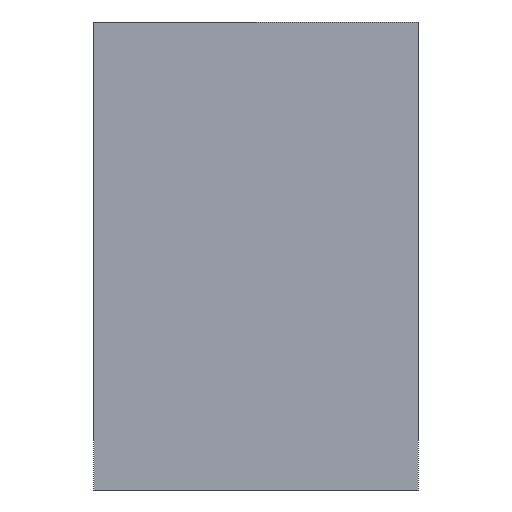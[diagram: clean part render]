
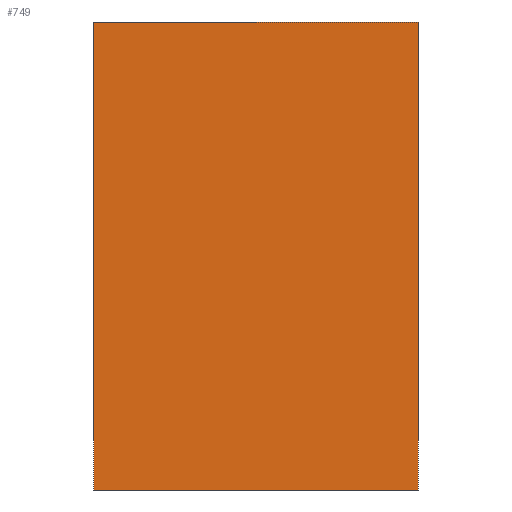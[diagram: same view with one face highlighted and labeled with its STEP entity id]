
A CAD part, left-side view. The second image highlights one B-rep face of the part: STEP entity #749.
In plain terms, the highlighted planar face has unit normal (-1, 0, 0).
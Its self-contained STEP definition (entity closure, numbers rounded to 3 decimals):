
#731=AXIS2_PLACEMENT_3D('Plane Axis2P3D',#728,#729,#730) ;
#292=CARTESIAN_POINT('Vertex',(-100.,22.5,0.)) ;
#295=CARTESIAN_POINT('Line Origine',(-100.,22.5,32.5)) ;
#299=CARTESIAN_POINT('Vertex',(-100.,22.5,65.)) ;
#431=CARTESIAN_POINT('Vertex',(-100.,-22.5,65.)) ;
#434=CARTESIAN_POINT('Line Origine',(-100.,-22.5,32.5)) ;
#438=CARTESIAN_POINT('Vertex',(-100.,-22.5,0.)) ;
#728=CARTESIAN_POINT('Axis2P3D Location',(-100.,-22.5,0.)) ;
#733=CARTESIAN_POINT('Line Origine',(-100.,0.,0.)) ;
#738=CARTESIAN_POINT('Line Origine',(-100.,0.,65.)) ;
#296=DIRECTION('Vector Direction',(0.,0.,1.)) ;
#435=DIRECTION('Vector Direction',(0.,0.,1.)) ;
#729=DIRECTION('Axis2P3D Direction',(1.,0.,0.)) ;
#730=DIRECTION('Axis2P3D XDirection',(0.,1.,0.)) ;
#734=DIRECTION('Vector Direction',(0.,1.,0.)) ;
#739=DIRECTION('Vector Direction',(0.,1.,0.)) ;
#297=VECTOR('Line Direction',#296,1.) ;
#436=VECTOR('Line Direction',#435,1.) ;
#735=VECTOR('Line Direction',#734,1.) ;
#740=VECTOR('Line Direction',#739,1.) ;
#744=ORIENTED_EDGE('',*,*,#301,.F.) ;
#745=ORIENTED_EDGE('',*,*,#737,.T.) ;
#746=ORIENTED_EDGE('',*,*,#440,.T.) ;
#747=ORIENTED_EDGE('',*,*,#742,.F.) ;
#749=ADVANCED_FACE('\X2\96F64EF651E04F554F53\X0\',(#748),#732,.F.) ;
#301=EDGE_CURVE('',#293,#300,#298,.T.) ;
#440=EDGE_CURVE('',#439,#432,#437,.T.) ;
#737=EDGE_CURVE('',#293,#439,#736,.F.) ;
#742=EDGE_CURVE('',#300,#432,#741,.F.) ;
#743=EDGE_LOOP('',(#744,#745,#746,#747)) ;
#748=FACE_OUTER_BOUND('',#743,.T.) ;
#298=LINE('Line',#295,#297) ;
#437=LINE('Line',#434,#436) ;
#736=LINE('Line',#733,#735) ;
#741=LINE('Line',#738,#740) ;
#732=PLANE('Plane',#731) ;
#293=VERTEX_POINT('',#292) ;
#300=VERTEX_POINT('',#299) ;
#432=VERTEX_POINT('',#431) ;
#439=VERTEX_POINT('',#438) ;
